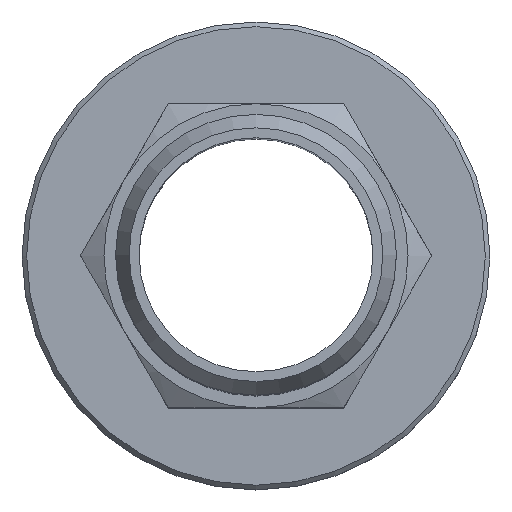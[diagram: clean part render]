
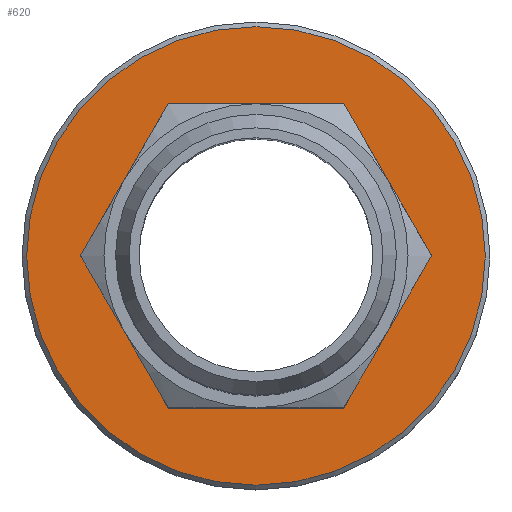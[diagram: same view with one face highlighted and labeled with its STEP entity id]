
A CAD part, top view. The second image highlights one B-rep face of the part: STEP entity #620.
In plain terms, the highlighted planar face has unit normal (0, 0, 1).
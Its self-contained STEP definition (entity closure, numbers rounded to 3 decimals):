
#620=ADVANCED_FACE('', (#630,#640), #650, .T.);
#2880=AXIS2_PLACEMENT_3D('Ax2Pl3d', #2890, #2900, #2910);
#2920=AXIS2_PLACEMENT_3D('Ax2Pl3d', #2930, #2940, #2950);
#6170=CARTESIAN_POINT('', (7.877,0.,18.378));
#6180=CARTESIAN_POINT('', (11.629,6.5,18.378));
#6190=CARTESIAN_POINT('', (7.877,0.,18.378));
#6270=CARTESIAN_POINT('', (11.629,6.5,18.378));
#6280=CARTESIAN_POINT('', (19.135,6.5,18.378));
#6320=CARTESIAN_POINT('', (19.135,6.5,18.378));
#6330=CARTESIAN_POINT('', (22.888,0.,18.378));
#6370=CARTESIAN_POINT('', (22.888,0.,18.378));
#6380=CARTESIAN_POINT('', (19.135,-6.5,18.378));
#6420=CARTESIAN_POINT('', (19.135,-6.5,18.378));
#6430=CARTESIAN_POINT('', (11.629,-6.5,18.378));
#6460=CARTESIAN_POINT('', (11.629,-6.5,18.378));
#2890=CARTESIAN_POINT('HicPkt', (25.182,0.,18.378));
#2930=CARTESIAN_POINT('HicPkt', (15.382,0.,18.378));
#6470=CARTESIAN_POINT('', (15.382,9.8,18.378));
#6850=CIRCLE('Circle', #2920, 9.8);
#9090=DIRECTION('', (-0.5,-0.866,0.));
#9120=DIRECTION('', (-1.,0.,0.));
#9140=DIRECTION('', (-0.5,0.866,0.));
#9160=DIRECTION('', (0.5,0.866,0.));
#9180=DIRECTION('', (1.,0.,0.));
#9200=DIRECTION('', (0.5,-0.866,0.));
#2900=DIRECTION('Axis', (0.,0.,1.));
#2910=DIRECTION('RefDirection', (1.,0.,-0.));
#2940=DIRECTION('Axis', (0.,0.,1.));
#2950=DIRECTION('RefDirection', (1.,0.,-0.));
#9290=EDGE_CURVE('', #9300, #9310, #9320, .T.);
#9480=EDGE_CURVE('', #9490, #9300, #9500, .T.);
#9580=EDGE_CURVE('', #9590, #9490, #9600, .T.);
#9680=EDGE_CURVE('', #9690, #9590, #9700, .T.);
#9780=EDGE_CURVE('', #9790, #9690, #9800, .T.);
#9870=EDGE_CURVE('', #9310, #9790, #9880, .T.);
#9890=EDGE_CURVE('', #9900, #9900, #6850, .T.);
#11210=EDGE_LOOP('Edge_loop', (#11220));
#11230=EDGE_LOOP('Edge_loop', (#11240,#11250,#11260,#11270,#11280,
#11290));
#640=FACE_BOUND('', #11230, .T.);
#630=FACE_OUTER_BOUND('Face_outer_bound', #11210, .T.);
#9320=LINE('Line', #6170, #12970);
#9500=LINE('Line', #6270, #13000);
#9600=LINE('Line', #6320, #13020);
#9700=LINE('Line', #6370, #13040);
#9800=LINE('Line', #6420, #13060);
#9880=LINE('Line', #6460, #13080);
#11220=ORIENTED_EDGE('', *, *, #9890, .T.);
#11240=ORIENTED_EDGE('', *, *, #9290, .F.);
#11250=ORIENTED_EDGE('', *, *, #9480, .F.);
#11260=ORIENTED_EDGE('', *, *, #9580, .F.);
#11270=ORIENTED_EDGE('', *, *, #9680, .F.);
#11280=ORIENTED_EDGE('', *, *, #9780, .F.);
#11290=ORIENTED_EDGE('', *, *, #9870, .F.);
#650=PLANE('Plane', #2880);
#12970=VECTOR('', #9090, 7.506);
#13000=VECTOR('', #9120, 7.506);
#13020=VECTOR('', #9140, 7.506);
#13040=VECTOR('', #9160, 7.506);
#13060=VECTOR('', #9180, 7.506);
#13080=VECTOR('', #9200, 7.506);
#9300=VERTEX_POINT('', #6180);
#9310=VERTEX_POINT('', #6190);
#9490=VERTEX_POINT('', #6280);
#9590=VERTEX_POINT('', #6330);
#9690=VERTEX_POINT('', #6380);
#9790=VERTEX_POINT('', #6430);
#9900=VERTEX_POINT('', #6470);
